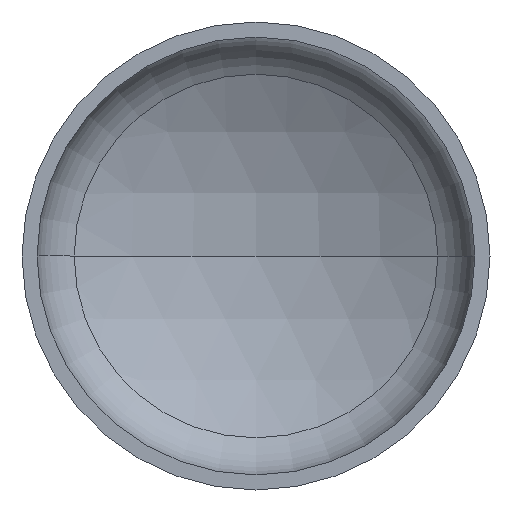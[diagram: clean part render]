
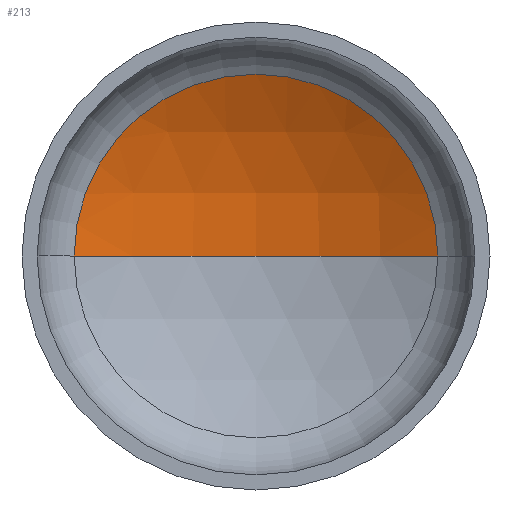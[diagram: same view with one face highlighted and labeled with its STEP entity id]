
A CAD part, front view. The second image highlights one B-rep face of the part: STEP entity #213.
In plain terms, the highlighted spherical face has radius 1040 mm.
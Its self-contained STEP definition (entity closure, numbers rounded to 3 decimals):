
#1 = AXIS2_PLACEMENT_3D ( 'NONE', #289, #112, #316 ) ;
#3 = AXIS2_PLACEMENT_3D ( 'NONE', #184, #367, #217 ) ;
#8 = AXIS2_PLACEMENT_3D ( 'NONE', #216, #387, #244 ) ;
#27 = AXIS2_PLACEMENT_3D ( 'NONE', #332, #237, #168 ) ;
#80 = ORIENTED_EDGE ( 'NONE', *, *, #373, .T. ) ;
#91 = CIRCLE ( 'NONE', #1, 1040. ) ;
#96 = CARTESIAN_POINT ( 'NONE',  ( 0., 435.741, 0. ) ) ;
#101 = VERTEX_POINT ( 'NONE', #352 ) ;
#112 = DIRECTION ( 'NONE',  ( 0., 0., -1. ) ) ;
#114 = VERTEX_POINT ( 'NONE', #96 ) ;
#154 = VERTEX_POINT ( 'NONE', #166 ) ;
#156 = ORIENTED_EDGE ( 'NONE', *, *, #365, .T. ) ;
#167 = ORIENTED_EDGE ( 'NONE', *, *, #331, .F. ) ;
#166 = CARTESIAN_POINT ( 'NONE',  ( 505.143, 304.824, 0. ) ) ;
#168 = DIRECTION ( 'NONE',  ( -1., 0., 0. ) ) ;
#184 = CARTESIAN_POINT ( 'NONE',  ( 0., 304.824, 0. ) ) ;
#193 = EDGE_LOOP ( 'NONE', ( #167, #156, #80 ) ) ;
#213 = ADVANCED_FACE ( 'NONE', ( #300 ), #372, .F. ) ;
#216 = CARTESIAN_POINT ( 'NONE',  ( 0., -604.259, 0. ) ) ;
#217 = DIRECTION ( 'NONE',  ( 1., 0., 0. ) ) ;
#237 = DIRECTION ( 'NONE',  ( 0., 0., -1. ) ) ;
#244 = DIRECTION ( 'NONE',  ( 1., 0., 0. ) ) ;
#270 = CIRCLE ( 'NONE', #8, 1040. ) ;
#289 = CARTESIAN_POINT ( 'NONE',  ( 0., -604.259, 0. ) ) ;
#300 = FACE_OUTER_BOUND ( 'NONE', #193, .T. ) ;
#316 = DIRECTION ( 'NONE',  ( -1., 0., 0. ) ) ;
#331 = EDGE_CURVE ( 'NONE', #114, #101, #270, .T. ) ;
#332 = CARTESIAN_POINT ( 'NONE',  ( 0., -604.259, 0. ) ) ;
#352 = CARTESIAN_POINT ( 'NONE',  ( -505.143, 304.824, 0. ) ) ;
#365 = EDGE_CURVE ( 'NONE', #114, #154, #91, .T. ) ;
#367 = DIRECTION ( 'NONE',  ( 0., -1., 0. ) ) ;
#372 = SPHERICAL_SURFACE ( 'NONE', #27, 1040. ) ;
#373 = EDGE_CURVE ( 'NONE', #154, #101, #396, .T. ) ;
#387 = DIRECTION ( 'NONE',  ( 0., 0., 1. ) ) ;
#396 = CIRCLE ( 'NONE', #3, 505.143 ) ;
